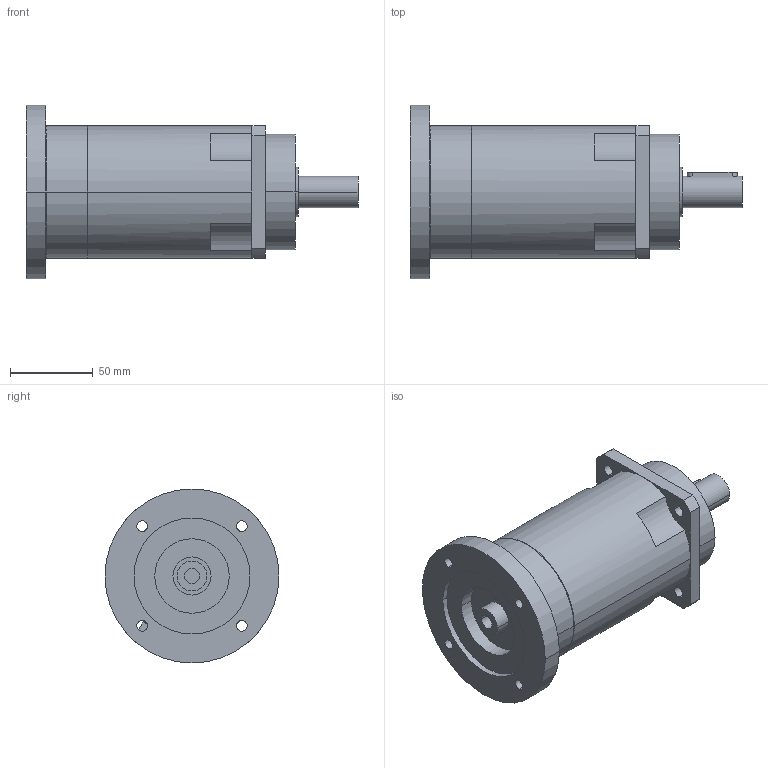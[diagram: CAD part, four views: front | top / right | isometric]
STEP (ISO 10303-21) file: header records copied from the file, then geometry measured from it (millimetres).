
FILE_DESCRIPTION(('CoCreate Modeling STEP Export'),'2;1');
FILE_NAME('GPR100_ig-48-64-80-100-120-144-180-216_19_B5_9_P04.stp','2014-08-26T13:05:05',(''),(''),'CoCreate Modeling STEP processor for AP214 (Solid Model)','CoCreate Modeling 16.00C 25-Feb-2009 (C) Parametric Technology GmbH','');
FILE_SCHEMA(('AUTOMOTIVE_DESIGN { 1 0 10303 214 1 1 1 1 }'));
Length unit declared in the file: millimetre
Products named in the file (2): GPR100_ig-48-64-80-100-120-144-180-216_19_B5_9_P04
Assembly tree (1 placements, depth 2):
  GPR100_ig-48-64-80-100-120-144-180-216_19_B5_9_P04
    GPR100_ig-48-64-80-100-120-144-180-216_19_B5_9_P04
Bounding box: 200.4 x 105 x 105 mm (x, y, z)
Surface area: 70145.7 mm2 (no closed solid volume)
Topology: 0 solids, 1 shells, 99 faces, 286 edges, 196 vertices
Faces by surface type: cylinder 58, plane 35, cone 6
Entity records: 2931 total; most frequent: CARTESIAN_POINT 605, ORIENTED_EDGE 556, DIRECTION 396, EDGE_CURVE 280, VERTEX_POINT 194, AXIS2_PLACEMENT_3D 153, EDGE_LOOP 127, FACE_OUTER_BOUND 99
